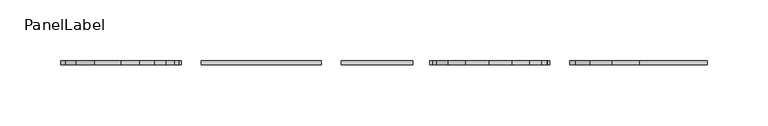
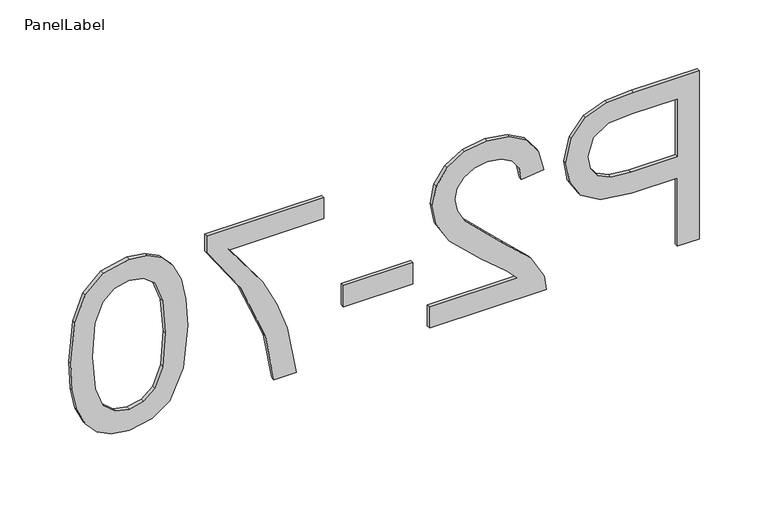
"""IFC4 building model written with IfcOpenShell, lengths in millimetres: fastener geometry, PanelLabel : Miranda."""

from ifc_helpers import new_model, si_unit, frame, origin, place, context, project, spatial, polyline, outline, extrude, source, transform, mapped, element, save


def panellabel_e37a929f(model_context):
    return source(origin(), model_context, "Body", "SweptSolid", [
        extrude(outline(polyline([(1310.9113766, 260.2523077), (1460.9667612, 260.2523077), (1460.9667612, 204.6409615), (1459.5380112, 182.2205769), (1452.5224823, 163.9948558), (1438.0151747, 152.1801923), (1417.554742, 147.7107692), (1399.8693814, 150.7285457), (1385.1331073, 159.781875), (1375.1868093, 176.7116466), (1371.8713766, 203.35875), (1371.8713766, 241.4953846), (1310.9113766, 241.4953846), (1310.9113766, 260.2523077)]), holes=[polyline([(1390.6282997, 241.4953846), (1390.6282997, 202.2597115), (1392.3501266, 185.6275962), (1397.5156073, 174.6372115), (1405.8041891, 168.5100721), (1416.8953189, 166.4676923), (1432.4283958, 171.2851442), (1440.9276266, 183.9424038), (1442.2098381, 202.6993269), (1442.2098381, 241.4953846), (1390.6282997, 241.4953846)])]), frame((0.0, 60.325, 0.0), z_axis=(0.0, 1.0, 0.0), x_axis=(0.0, 0.0, 1.0)), (0.0, 0.0, 1.0), 3.175),
        extrude(outline(polyline([(1329.6682997, 32.8246154), (1310.9113766, 32.8246154), (1310.9113766, 131.2984615), (1323.8433958, 129.2835577), (1343.7543093, 117.8901923), (1365.4969535, 94.4074038), (1396.7462804, 62.0224038), (1407.5168573, 55.9502163), (1417.9943573, 53.9261538), (1427.3865569, 55.8357332), (1435.1943093, 61.5644712), (1440.4559559, 70.3705168), (1442.2098381, 81.5120192), (1440.4971698, 93.2121995), (1435.359165, 102.3021635), (1427.1988045, 108.1682813), (1416.4190689, 110.1969231), (1418.7636843, 128.9538462), (1436.9069775, 124.4065745), (1450.1595497, 114.5747596), (1458.2649583, 99.9712861), (1460.9667612, 81.1090385), (1457.9627227, 62.1094111), (1448.9506073, 47.5334135), (1435.4873862, 38.2602764), (1419.1300304, 35.1692308), (1401.3439247, 38.5029808), (1382.9533477, 49.5849519), (1357.254165, 76.4564423), (1339.211617, 98.0342308), (1329.6682997, 106.4968269), (1329.6682997, 32.8246154)])), frame((0.0, 60.325, 0.0), z_axis=(0.0, 1.0, 0.0), x_axis=(0.0, 0.0, 1.0)), (0.0, 0.0, 1.0), 3.175),
        extrude(outline(polyline([(-39.8584615, 63.5), (18.7569231, 63.5), (18.7569231, 60.325), (-39.8584615, 60.325), (-39.8584615, 63.5)])), frame((0.0, 0.0, 1355.4590689), z_axis=(0.0, 0.0, 1.0), x_axis=(1.0, 0.0, 0.0)), (0.0, 0.0, 1.0), 18.7569231),
        extrude(outline(polyline([(1439.8652227, -56.2707692), (1458.6221458, -56.2707692), (1458.6221458, -154.7446154), (1443.455415, -154.7446154), (1403.1023862, -126.8107212), (1351.6857035, -105.4344231), (1310.9113766, -98.4738462), (1310.9113766, -79.7169231), (1353.2243573, -87.1720673), (1377.5817972, -95.8498918), (1401.0508477, -107.6325), (1439.8652227, -135.9876923), (1439.8652227, -56.2707692)])), frame((0.0, 60.325, 0.0), z_axis=(0.0, 1.0, 0.0), x_axis=(0.0, 0.0, 1.0)), (0.0, 0.0, 1.0), 3.175),
        extrude(outline(polyline([(1384.7301266, -171.1569231), (1408.7486963, -172.5353005), (1427.9040208, -176.6704327), (1442.4891771, -183.5211058), (1452.797242, -193.0461058), (1458.9243814, -205.3141226), (1460.9667612, -220.3938462), (1456.130992, -242.3013462), (1442.1915208, -257.4314423), (1419.9909439, -266.22375), (1384.7301266, -269.6307692), (1360.8489367, -268.2661298), (1341.7394054, -264.1722115), (1327.1405112, -257.3627524), (1316.7912323, -247.8514904), (1310.622879, -235.5559976), (1308.5667612, -220.3938462), (1312.1386362, -200.9042308), (1322.8542612, -186.1038462), (1348.232891, -174.8936538), (1384.7301266, -171.1569231)]), holes=[polyline([(1384.7667612, -189.9138462), (1355.2621578, -192.1119231), (1338.1858477, -198.7061538), (1330.0392251, -208.5242308), (1327.3236843, -220.3938462), (1330.0483838, -232.2634615), (1338.2224823, -242.0815385), (1355.3079511, -248.6757692), (1384.7667612, -250.8738462), (1413.6073622, -248.7490385), (1430.8164727, -242.3746154), (1439.3614968, -232.5748558), (1442.2098381, -220.1740385), (1439.700367, -208.4326442), (1432.1719535, -198.9992308), (1413.8912804, -192.1851923), (1384.7667612, -189.9138462)])]), frame((0.0, 60.325, 0.0), z_axis=(0.0, 1.0, 0.0), x_axis=(0.0, 0.0, 1.0)), (0.0, 0.0, 1.0), 3.175),
    ])


if __name__ == "__main__":
    model = new_model("IFC4")
    model_context = context("Model", 3, world=origin())
    ifc_project = project(units=[si_unit("LENGTHUNIT", "METRE", prefix="MILLI")], contexts=[model_context])
    site = spatial("IfcSite", under=ifc_project)
    building = spatial("IfcBuilding", under=site)
    placement = place(None, origin())
    panellabel_shape = panellabel_e37a929f(model_context)
    element("IfcFastener", 1, ObjectType="PanelLabel : Miranda", at=placement, inside=building, context=model_context, shape_type="MappedRepresentation", body=[
        mapped(panellabel_shape, transform((0.0, 0.0, 0.0), x_axis=(1.0, 0.0, 0.0), y_axis=(0.0, 1.0, 0.0), z_axis=(0.0, 0.0, 1.0))),
    ])
    save(model, "model.ifc")
